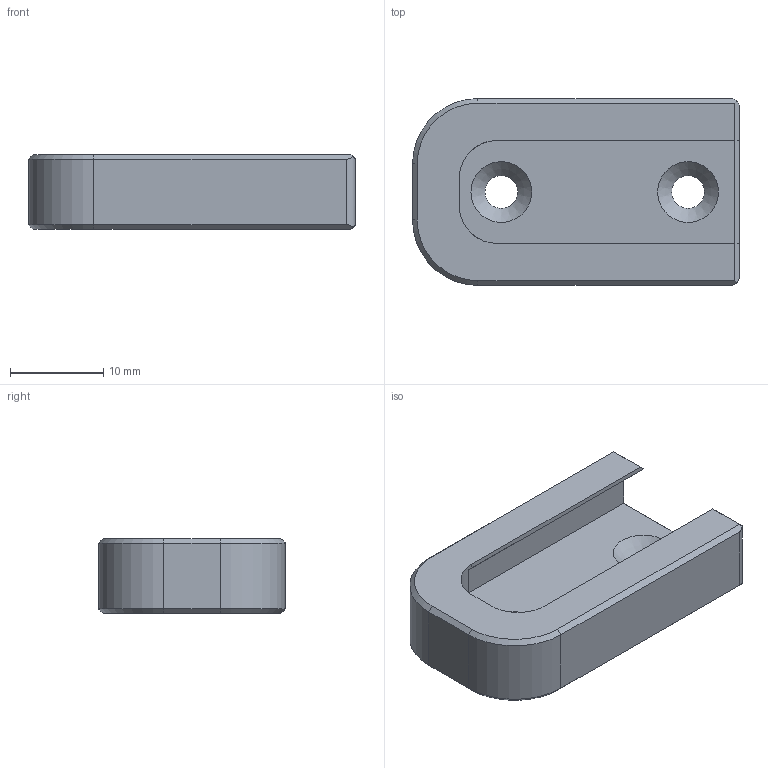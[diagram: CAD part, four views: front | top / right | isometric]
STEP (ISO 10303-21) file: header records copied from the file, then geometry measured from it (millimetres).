
FILE_DESCRIPTION(/* description */ ('Unknown','CAx-IF Rec.Pracs.---Representation and Presentation of Product Manufacturing Information (PMI)---4.0---2014-10-13','CAx-IF Rec.Pracs.---3D Tessellated Geometry---0.4---2014-09-14','2;1'),/* implementation_level */ '2;1');
FILE_NAME(/* name */ 'Base_Wall_Mount_VC',/* time_stamp */ '2025-01-20T11:44:38+01:00',/* author */ ('Unknown'),/* organization */ ('Unknown'),/* preprocessor_version */ 'ST-DEVELOPER v19.4',/* originating_system */ 'Solid Edge',/* authorisation */ 'Unknown');
FILE_SCHEMA (('AP242_MANAGED_MODEL_BASED_3D_ENGINEERING_MIM_LF { 1 0 10303 442 1 1 4 }'));
Length unit declared in the file: millimetre
Products named in the file (1): Base_Wall_Mount_VC
Bounding box: 35 x 20 x 8 mm (x, y, z)
Volume: 2837.8 mm3; surface area: 2642.8 mm2
Topology: 1 solids, 3 shells, 54 faces, 132 edges, 84 vertices
Faces by surface type: plane 40, cylinder 8, cone 6
Full cylindrical faces by diameter (mm): 3.5 x2
Entity records: 1562 total; most frequent: DIRECTION 266, CARTESIAN_POINT 264, ORIENTED_EDGE 252, EDGE_CURVE 126, LINE 98, VECTOR 98, AXIS2_PLACEMENT_3D 84, VERTEX_POINT 82
